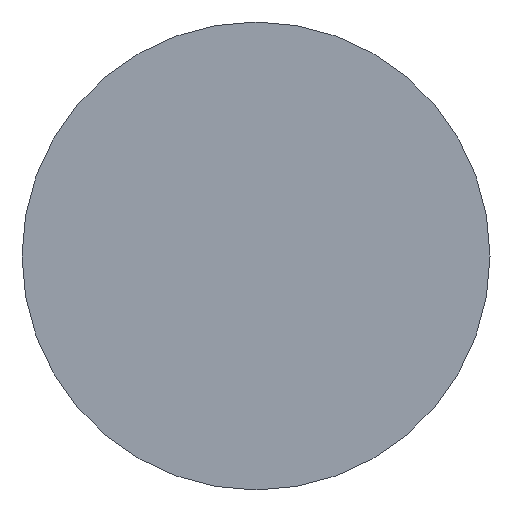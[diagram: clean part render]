
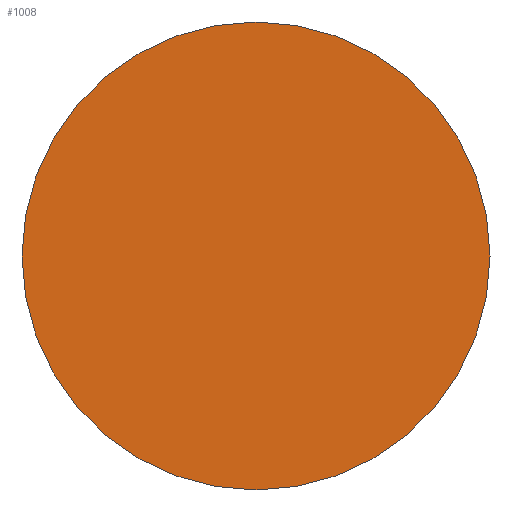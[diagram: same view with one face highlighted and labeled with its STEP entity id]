
A CAD part, front view. The second image highlights one B-rep face of the part: STEP entity #1008.
In plain terms, the highlighted planar face has unit normal (0, -1, 0).
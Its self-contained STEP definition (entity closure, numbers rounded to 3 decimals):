
#272 = AXIS2_PLACEMENT_3D ( 'NONE', #2247, #364, #4201 ) ;
#364 = DIRECTION ( 'NONE',  ( 0., -1., 0. ) ) ;
#454 = EDGE_LOOP ( 'NONE', ( #1542, #2085 ) ) ;
#621 = PLANE ( 'NONE',  #2549 ) ;
#795 = VERTEX_POINT ( 'NONE', #4120 ) ;
#895 = EDGE_CURVE ( 'NONE', #1491, #795, #4140, .T. ) ;
#993 = FACE_OUTER_BOUND ( 'NONE', #454, .T. ) ;
#1008 = ADVANCED_FACE ( 'NONE', ( #993 ), #621, .T. ) ;
#1197 = AXIS2_PLACEMENT_3D ( 'NONE', #4014, #3974, #3041 ) ;
#1491 = VERTEX_POINT ( 'NONE', #1665 ) ;
#1542 = ORIENTED_EDGE ( 'NONE', *, *, #3862, .T. ) ;
#1665 = CARTESIAN_POINT ( 'NONE',  ( -41., -30., 0. ) ) ;
#1935 = DIRECTION ( 'NONE',  ( 1., 0., 0. ) ) ;
#2085 = ORIENTED_EDGE ( 'NONE', *, *, #895, .T. ) ;
#2247 = CARTESIAN_POINT ( 'NONE',  ( 0., -30., 0. ) ) ;
#2549 = AXIS2_PLACEMENT_3D ( 'NONE', #3569, #3658, #1935 ) ;
#3041 = DIRECTION ( 'NONE',  ( 1., 0., 0. ) ) ;
#3293 = CIRCLE ( 'NONE', #272, 41. ) ;
#3569 = CARTESIAN_POINT ( 'NONE',  ( 41., -30., 0. ) ) ;
#3658 = DIRECTION ( 'NONE',  ( 0., -1., 0. ) ) ;
#3862 = EDGE_CURVE ( 'NONE', #795, #1491, #3293, .T. ) ;
#3974 = DIRECTION ( 'NONE',  ( 0., -1., 0. ) ) ;
#4014 = CARTESIAN_POINT ( 'NONE',  ( 0., -30., 0. ) ) ;
#4120 = CARTESIAN_POINT ( 'NONE',  ( 41., -30., 0. ) ) ;
#4140 = CIRCLE ( 'NONE', #1197, 41. ) ;
#4201 = DIRECTION ( 'NONE',  ( 1., 0., 0. ) ) ;
